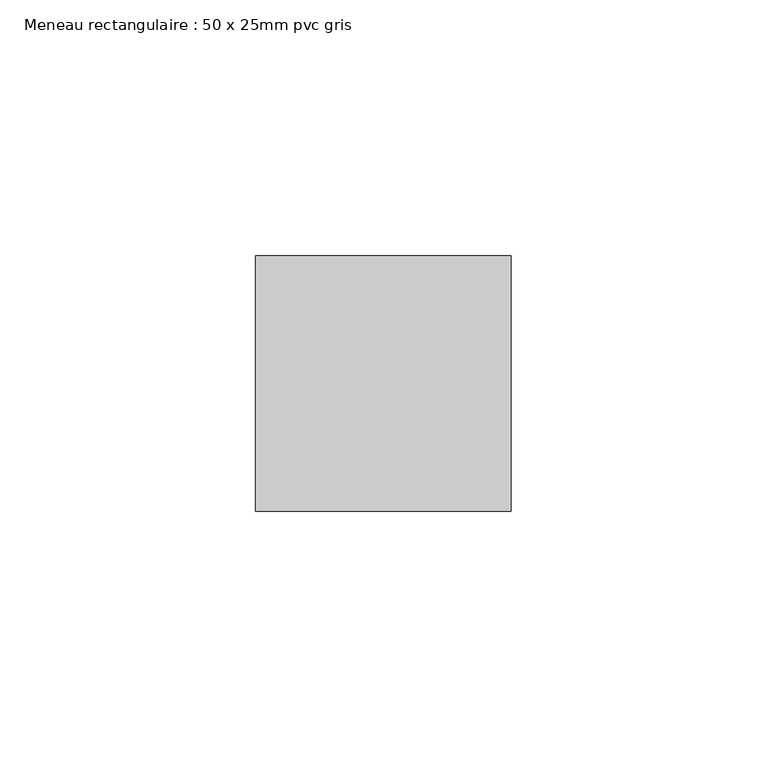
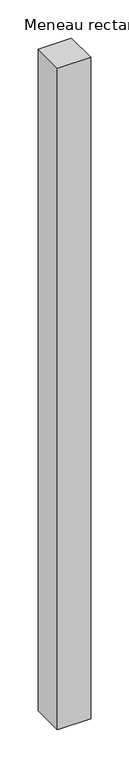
"""IFC4 building model written with IfcOpenShell, lengths in millimetres: member geometry, Meneau rectangulaire : 50 x 25mm pvc gris."""

from ifc_helpers import new_model, si_unit, frame, origin, place, context, project, spatial, polyline, outline, extrude, source, transform, mapped, element, save


def meneau_rectangulaire_50_x_25mm_pvc_gris_8646e4ab(model_context):
    return source(origin(), model_context, "Body", "SweptSolid", [
        extrude(outline(polyline([(0.0, 0.0), (0.0, -50.0), (-50.0, -50.0), (-50.0, 0.0), (0.0, 0.0)])), frame((0.0, 0.0, -1054.0), z_axis=(0.0, 0.0, 1.0), x_axis=(1.0, 0.0, 0.0)), (0.0, 0.0, 1.0), 1054.0),
    ])


if __name__ == "__main__":
    model = new_model("IFC4")
    model_context = context("Model", 3, world=origin())
    ifc_project = project(units=[si_unit("LENGTHUNIT", "METRE", prefix="MILLI")], contexts=[model_context])
    site = spatial("IfcSite", under=ifc_project)
    building = spatial("IfcBuilding", under=site)
    placement = place(None, origin())
    meneau_rectangulaire_50_x_25mm_pvc_gris_shape = meneau_rectangulaire_50_x_25mm_pvc_gris_8646e4ab(model_context)
    element("IfcMember", 1, ObjectType="Meneau rectangulaire : 50 x 25mm pvc gris", at=placement, inside=building, context=model_context, shape_type="MappedRepresentation", body=[
        mapped(meneau_rectangulaire_50_x_25mm_pvc_gris_shape, transform((0.0, 0.0, 0.0), x_axis=(1.0, 0.0, 0.0), y_axis=(0.0, 1.0, 0.0), z_axis=(0.0, 0.0, 1.0))),
    ])
    save(model, "model.ifc")
